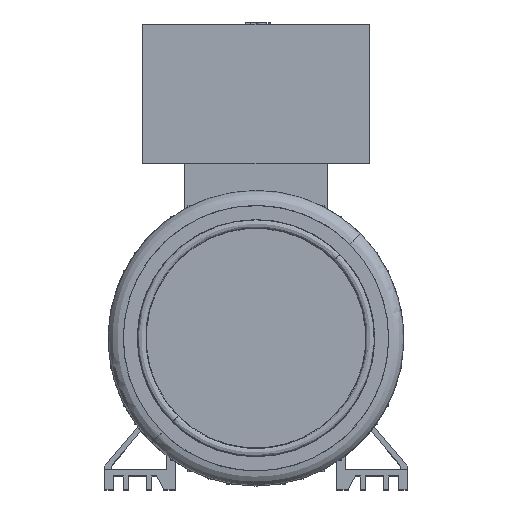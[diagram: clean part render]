
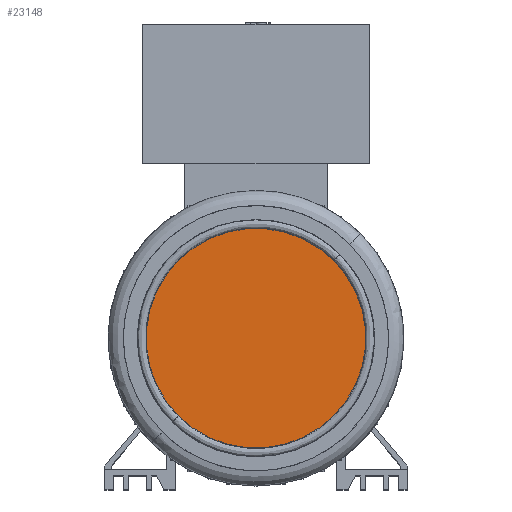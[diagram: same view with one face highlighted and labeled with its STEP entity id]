
A CAD part, top view. The second image highlights one B-rep face of the part: STEP entity #23148.
In plain terms, the highlighted planar face has unit normal (0, 0, 1).
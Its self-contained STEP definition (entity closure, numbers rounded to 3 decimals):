
#31 = AXIS2_PLACEMENT_3D ( 'NONE', #9644, #7766, #9562 ) ;
#1768 = AXIS2_PLACEMENT_3D ( 'NONE', #7892, #14932, #18654 ) ;
#5056 = CARTESIAN_POINT ( 'NONE',  ( -46.246, 46.246, 158.8 ) ) ;
#6273 = EDGE_CURVE ( 'NONE', #19238, #21253, #13790, .T. ) ;
#6625 = EDGE_LOOP ( 'NONE', ( #11890, #13446 ) ) ;
#6706 = DIRECTION ( 'NONE',  ( 0., 0., -1. ) ) ;
#6871 = CIRCLE ( 'NONE', #1768, 65.402 ) ;
#7766 = DIRECTION ( 'NONE',  ( 0., 0., -1. ) ) ;
#7892 = CARTESIAN_POINT ( 'NONE',  ( 0., 0., 158.8 ) ) ;
#9562 = DIRECTION ( 'NONE',  ( 0., 1., 0. ) ) ;
#9644 = CARTESIAN_POINT ( 'NONE',  ( 0., 0., 158.8 ) ) ;
#9736 = FACE_OUTER_BOUND ( 'NONE', #6625, .T. ) ;
#10161 = PLANE ( 'NONE',  #21347 ) ;
#11890 = ORIENTED_EDGE ( 'NONE', *, *, #20540, .F. ) ;
#13446 = ORIENTED_EDGE ( 'NONE', *, *, #6273, .F. ) ;
#13790 = CIRCLE ( 'NONE', #31, 65.402 ) ;
#14932 = DIRECTION ( 'NONE',  ( 0., 0., -1. ) ) ;
#15291 = CARTESIAN_POINT ( 'NONE',  ( -46.246, -46.246, 158.8 ) ) ;
#15712 = DIRECTION ( 'NONE',  ( 0., 1., 0. ) ) ;
#18453 = CARTESIAN_POINT ( 'NONE',  ( 46.246, 46.246, 158.8 ) ) ;
#18654 = DIRECTION ( 'NONE',  ( 0., 1., 0. ) ) ;
#19238 = VERTEX_POINT ( 'NONE', #18453 ) ;
#20540 = EDGE_CURVE ( 'NONE', #21253, #19238, #6871, .T. ) ;
#21253 = VERTEX_POINT ( 'NONE', #15291 ) ;
#21347 = AXIS2_PLACEMENT_3D ( 'NONE', #5056, #6706, #15712 ) ;
#23148 = ADVANCED_FACE ( 'NONE', ( #9736 ), #10161, .F. ) ;
